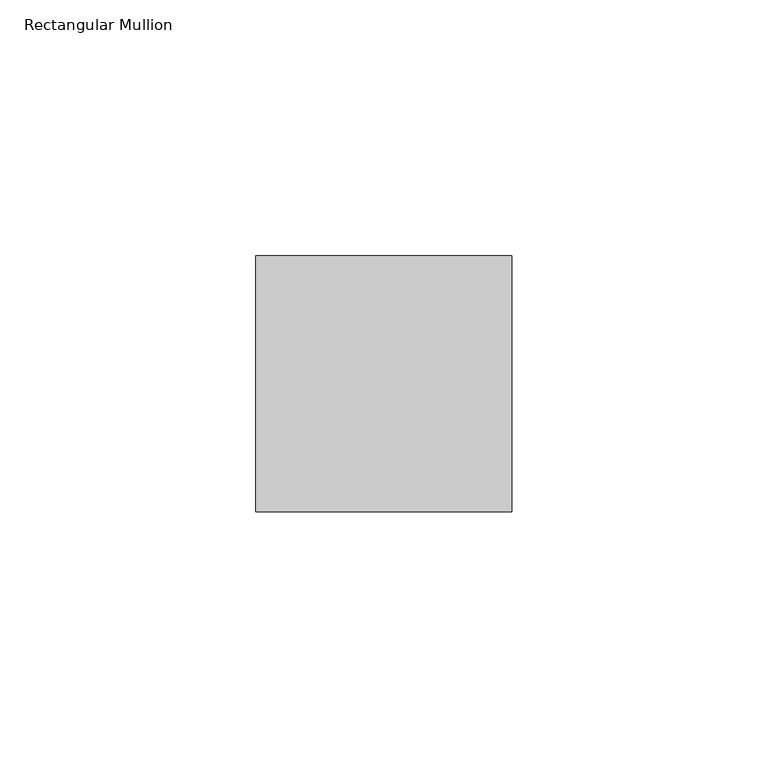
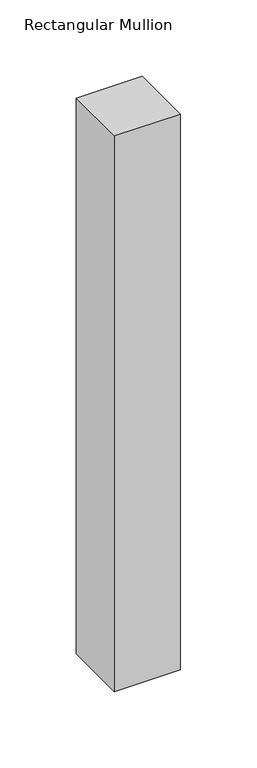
"""IFC4 building model written with IfcOpenShell, lengths in millimetres: member geometry, Rectangular Mullion : RSen_21_CWM_support profile 50x50 - left_gen_duco projects."""

from ifc_helpers import new_model, si_unit, frame, origin, place, context, project, spatial, polyline, outline, extrude, source, transform, mapped, element, save


def rectangular_mullion_4d54ce13(model_context):
    return source(origin(), model_context, "Body", "SweptSolid", [
        extrude(outline(polyline([(0.0, 1.0), (0.0, -49.0), (-50.0, -49.0), (-50.0, 1.0), (0.0, 1.0)])), frame((0.0, 0.0, -445.0), z_axis=(0.0, 0.0, 1.0), x_axis=(1.0, 0.0, 0.0)), (0.0, 0.0, 1.0), 445.0),
    ])


if __name__ == "__main__":
    model = new_model("IFC4")
    model_context = context("Model", 3, world=origin())
    ifc_project = project(units=[si_unit("LENGTHUNIT", "METRE", prefix="MILLI")], contexts=[model_context])
    site = spatial("IfcSite", under=ifc_project)
    building = spatial("IfcBuilding", under=site)
    placement = place(None, origin())
    rectangular_mullion_shape = rectangular_mullion_4d54ce13(model_context)
    element("IfcMember", 1, ObjectType="Rectangular Mullion : RSen_21_CWM_support profile 50x50 - left_gen_duco projects", at=placement, inside=building, context=model_context, shape_type="MappedRepresentation", body=[
        mapped(rectangular_mullion_shape, transform((0.0, 0.0, 0.0), x_axis=(1.0, 0.0, 0.0), y_axis=(0.0, 1.0, 0.0), z_axis=(0.0, 0.0, 1.0))),
    ])
    save(model, "model.ifc")
